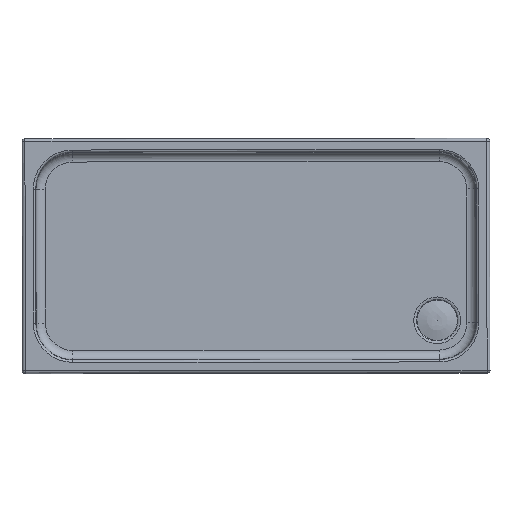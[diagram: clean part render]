
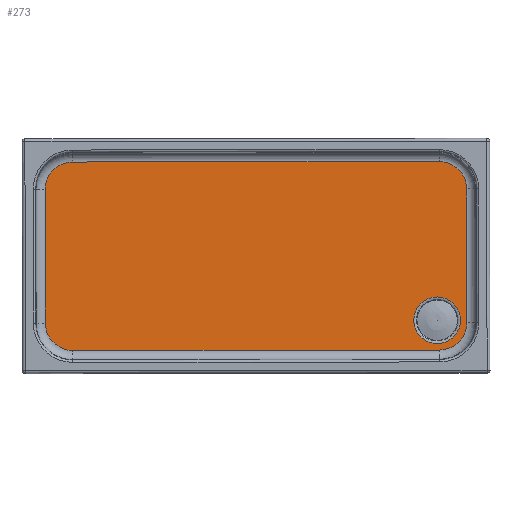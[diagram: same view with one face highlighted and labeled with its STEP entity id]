
A CAD part, top view. The second image highlights one B-rep face of the part: STEP entity #273.
In plain terms, the highlighted planar face has unit normal (0, 0, 1).
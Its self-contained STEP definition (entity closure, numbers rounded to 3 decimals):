
#180=CARTESIAN_POINT('',(544.817,246.219,-52.5));
#181=VERTEX_POINT('',#180);
#182=CARTESIAN_POINT('',(619.817,246.219,-52.5));
#183=DIRECTION('',(0.0,0.0,1.0));
#184=DIRECTION('',(1.0,0.0,0.0));
#185=AXIS2_PLACEMENT_3D('',#182,#183,#184);
#186=CIRCLE('',#185,75.0);
#187=EDGE_CURVE('',#181,#181,#186,.T.);
#195=CARTESIAN_POINT('',(412.317,-336.281,-52.5));
#196=DIRECTION('',(0.0,0.0,1.0));
#197=DIRECTION('',(1.0,0.0,0.0));
#198=AXIS2_PLACEMENT_3D('',#195,#196,#197);
#199=PLANE('',#198);
#200=CARTESIAN_POINT('',(109.207,-926.281,-52.5));
#201=VERTEX_POINT('',#200);
#202=CARTESIAN_POINT('',(109.207,253.719,-52.5));
#203=VERTEX_POINT('',#202);
#204=CARTESIAN_POINT('',(109.207,-926.281,-52.5));
#205=DIRECTION('',(0.0,1.0,0.0));
#206=VECTOR('',#205,1180.0);
#207=LINE('',#204,#206);
#208=EDGE_CURVE('',#201,#203,#207,.T.);
#209=ORIENTED_EDGE('',*,*,#208,.F.);
#210=CARTESIAN_POINT('',(197.317,-1014.391,-52.5));
#211=VERTEX_POINT('',#210);
#212=CARTESIAN_POINT('',(197.317,-926.281,-52.5));
#213=DIRECTION('',(0.0,0.0,-1.0));
#214=DIRECTION('',(-0.707,-0.707,0.0));
#215=AXIS2_PLACEMENT_3D('',#212,#213,#214);
#216=CIRCLE('',#215,88.11);
#217=EDGE_CURVE('',#211,#201,#216,.T.);
#218=ORIENTED_EDGE('',*,*,#217,.F.);
#219=CARTESIAN_POINT('',(627.317,-1014.391,-52.5));
#220=VERTEX_POINT('',#219);
#221=CARTESIAN_POINT('',(627.317,-1014.391,-52.5));
#222=DIRECTION('',(-1.0,0.0,0.0));
#223=VECTOR('',#222,430.);
#224=LINE('',#221,#223);
#225=EDGE_CURVE('',#220,#211,#224,.T.);
#226=ORIENTED_EDGE('',*,*,#225,.F.);
#227=CARTESIAN_POINT('',(715.427,-926.281,-52.5));
#228=VERTEX_POINT('',#227);
#229=CARTESIAN_POINT('',(627.317,-926.281,-52.5));
#230=DIRECTION('',(0.0,0.0,-1.0));
#231=DIRECTION('',(0.707,-0.707,0.0));
#232=AXIS2_PLACEMENT_3D('',#229,#230,#231);
#233=CIRCLE('',#232,88.11);
#234=EDGE_CURVE('',#228,#220,#233,.T.);
#235=ORIENTED_EDGE('',*,*,#234,.F.);
#236=CARTESIAN_POINT('',(715.427,253.719,-52.5));
#237=VERTEX_POINT('',#236);
#238=CARTESIAN_POINT('',(715.427,253.719,-52.5));
#239=DIRECTION('',(0.0,-1.0,0.0));
#240=VECTOR('',#239,1180.0);
#241=LINE('',#238,#240);
#242=EDGE_CURVE('',#237,#228,#241,.T.);
#243=ORIENTED_EDGE('',*,*,#242,.F.);
#244=CARTESIAN_POINT('',(627.317,341.829,-52.5));
#245=VERTEX_POINT('',#244);
#246=CARTESIAN_POINT('',(627.317,253.719,-52.5));
#247=DIRECTION('',(0.0,0.0,-1.));
#248=DIRECTION('',(0.707,0.707,0.0));
#249=AXIS2_PLACEMENT_3D('',#246,#247,#248);
#250=CIRCLE('',#249,88.11);
#251=EDGE_CURVE('',#245,#237,#250,.T.);
#252=ORIENTED_EDGE('',*,*,#251,.F.);
#253=CARTESIAN_POINT('',(197.317,341.829,-52.5));
#254=VERTEX_POINT('',#253);
#255=CARTESIAN_POINT('',(197.317,341.829,-52.5));
#256=DIRECTION('',(1.0,0.0,0.0));
#257=VECTOR('',#256,430.);
#258=LINE('',#255,#257);
#259=EDGE_CURVE('',#254,#245,#258,.T.);
#260=ORIENTED_EDGE('',*,*,#259,.F.);
#261=CARTESIAN_POINT('',(197.317,253.719,-52.5));
#262=DIRECTION('',(0.0,0.0,-1.0));
#263=DIRECTION('',(-0.707,0.707,0.0));
#264=AXIS2_PLACEMENT_3D('',#261,#262,#263);
#265=CIRCLE('',#264,88.11);
#266=EDGE_CURVE('',#203,#254,#265,.T.);
#267=ORIENTED_EDGE('',*,*,#266,.F.);
#268=EDGE_LOOP('',(#209,#218,#226,#235,#243,#252,#260,#267));
#269=FACE_OUTER_BOUND('',#268,.T.);
#270=ORIENTED_EDGE('',*,*,#187,.F.);
#271=EDGE_LOOP('',(#270));
#272=FACE_BOUND('',#271,.T.);
#273=ADVANCED_FACE('',(#269,#272),#199,.T.);
